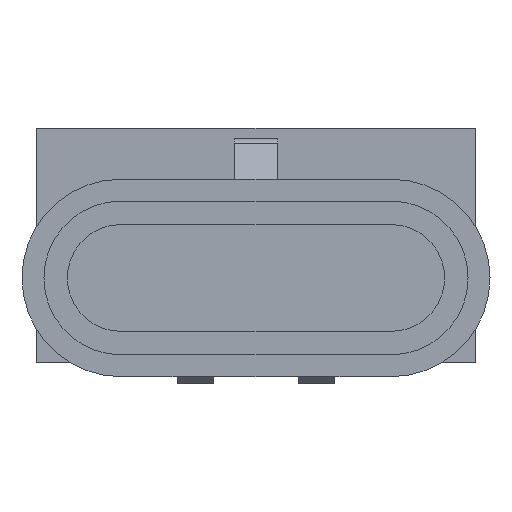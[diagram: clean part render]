
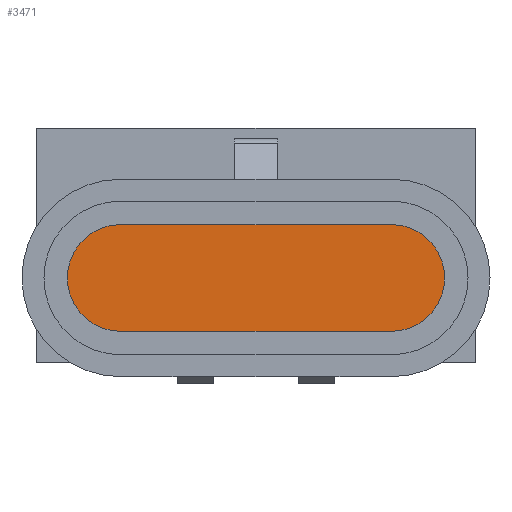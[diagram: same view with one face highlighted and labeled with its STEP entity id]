
A CAD part, front view. The second image highlights one B-rep face of the part: STEP entity #3471.
In plain terms, the highlighted planar face has unit normal (0, -1, 0) as drawn and (0, 0, -1) by its records, which use the part's own axes.
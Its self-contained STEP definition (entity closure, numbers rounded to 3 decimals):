
#241=LINE('',#5377,#503);
#245=LINE('',#5389,#507);
#503=VECTOR('',#4345,18.5);
#507=VECTOR('',#4357,18.5);
#692=PLANE('',#3747);
#875=FACE_OUTER_BOUND('',#1101,.T.);
#1101=EDGE_LOOP('',(#2563,#2564,#2565,#2566));
#1329=CIRCLE('',#3742,3.65);
#1331=CIRCLE('',#3746,3.65);
#1560=VERTEX_POINT('',#5374);
#1561=VERTEX_POINT('',#5376);
#1563=VERTEX_POINT('',#5382);
#1565=VERTEX_POINT('',#5388);
#1929=EDGE_CURVE('',#1561,#1560,#241,.T.);
#1932=EDGE_CURVE('',#1563,#1561,#1329,.T.);
#1935=EDGE_CURVE('',#1565,#1563,#245,.T.);
#1938=EDGE_CURVE('',#1560,#1565,#1331,.T.);
#2563=ORIENTED_EDGE('',*,*,#1932,.T.);
#2564=ORIENTED_EDGE('',*,*,#1929,.T.);
#2565=ORIENTED_EDGE('',*,*,#1938,.T.);
#2566=ORIENTED_EDGE('',*,*,#1935,.T.);
#3471=ADVANCED_FACE('',(#875),#692,.F.);
#3742=AXIS2_PLACEMENT_3D('',#5383,#4351,#4352);
#3746=AXIS2_PLACEMENT_3D('',#5393,#4363,#4364);
#3747=AXIS2_PLACEMENT_3D('',#5394,#4365,#4366);
#4345=DIRECTION('',(1.,0.,0.));
#4351=DIRECTION('center_axis',(0.,0.,-1.));
#4352=DIRECTION('ref_axis',(1.,0.,0.));
#4357=DIRECTION('',(-1.,0.,0.));
#4363=DIRECTION('center_axis',(0.,0.,-1.));
#4364=DIRECTION('ref_axis',(1.,0.,0.));
#4365=DIRECTION('center_axis',(0.,0.,1.));
#4366=DIRECTION('ref_axis',(1.,0.,0.));
#5374=CARTESIAN_POINT('',(9.25,-2.1,-60.5));
#5376=CARTESIAN_POINT('',(-9.25,-2.1,-60.5));
#5377=CARTESIAN_POINT('',(-9.25,-2.1,-60.5));
#5382=CARTESIAN_POINT('',(-9.25,-9.4,-60.5));
#5383=CARTESIAN_POINT('Origin',(-9.25,-5.75,-60.5));
#5388=CARTESIAN_POINT('',(9.25,-9.4,-60.5));
#5389=CARTESIAN_POINT('',(9.25,-9.4,-60.5));
#5393=CARTESIAN_POINT('Origin',(9.25,-5.75,-60.5));
#5394=CARTESIAN_POINT('Origin',(-9.25,-5.75,-60.5));
